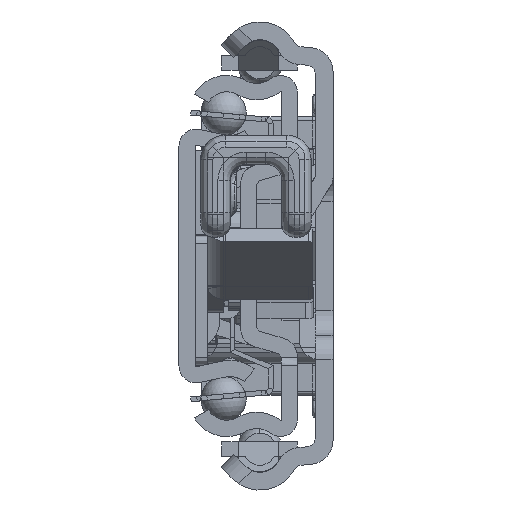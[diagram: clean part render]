
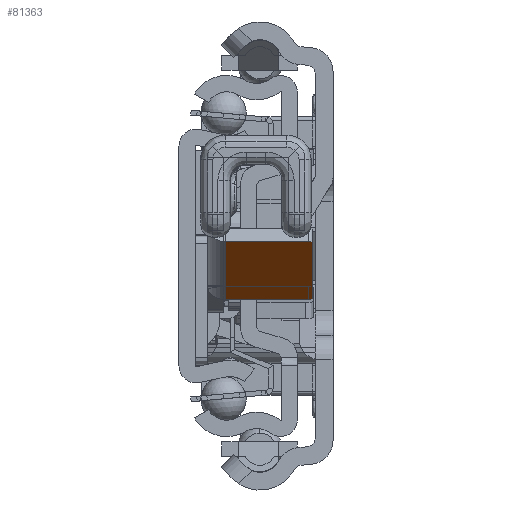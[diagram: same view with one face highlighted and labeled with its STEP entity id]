
A CAD part, left-side view. The second image highlights one B-rep face of the part: STEP entity #81363.
In plain terms, the highlighted planar face has unit normal (-0.597, 0, -0.802) as drawn and (-0.597, -0.802, 0) by its records, which use the part's own axes.
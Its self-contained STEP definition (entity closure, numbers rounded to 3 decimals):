
#80755=DIRECTION('',(0.802,-0.597,0.));
#80756=VECTOR('',#80755,12.);
#80757=CARTESIAN_POINT('',(31.957,-10.314,2.2));
#80758=LINE('',#80757,#80756);
#80783=CARTESIAN_POINT('',(41.184,-17.178,12.5));
#80784=DIRECTION('',(-0.597,-0.802,0.));
#80785=DIRECTION('',(0.802,-0.597,0.));
#80786=AXIS2_PLACEMENT_3D('',#80783,#80784,#80785);
#80788=DIRECTION('',(0.,0.,1.));
#80789=VECTOR('',#80788,10.3);
#80790=CARTESIAN_POINT('',(41.586,-17.476,2.2));
#80791=LINE('',#80790,#80789);
#80792=DIRECTION('',(0.,0.,-1.));
#80793=VECTOR('',#80792,10.3);
#80794=CARTESIAN_POINT('',(31.957,-10.314,12.5));
#80795=LINE('',#80794,#80793);
#80796=CARTESIAN_POINT('',(32.358,-10.613,12.5));
#80797=DIRECTION('',(-0.597,-0.802,0.));
#80798=DIRECTION('',(0.,0.,1.));
#80799=AXIS2_PLACEMENT_3D('',#80796,#80797,#80798);
#80801=DIRECTION('',(-0.802,0.597,0.));
#80802=VECTOR('',#80801,11.);
#80803=CARTESIAN_POINT('',(41.184,-17.178,13.));
#80804=LINE('',#80803,#80802);
#81017=CARTESIAN_POINT('',(31.957,-10.314,2.2));
#81018=CARTESIAN_POINT('',(41.586,-17.476,2.2));
#81019=VERTEX_POINT('',#81017);
#81020=VERTEX_POINT('',#81018);
#81049=CARTESIAN_POINT('',(41.586,-17.476,12.5));
#81050=CARTESIAN_POINT('',(41.184,-17.178,13.));
#81051=VERTEX_POINT('',#81049);
#81052=VERTEX_POINT('',#81050);
#81057=CARTESIAN_POINT('',(32.358,-10.613,13.));
#81058=CARTESIAN_POINT('',(31.957,-10.314,12.5));
#81059=VERTEX_POINT('',#81057);
#81060=VERTEX_POINT('',#81058);
#81345=CARTESIAN_POINT('',(34.726,-12.374,0.));
#81346=DIRECTION('',(-0.597,-0.802,0.));
#81347=DIRECTION('',(0.802,-0.597,0.));
#81348=AXIS2_PLACEMENT_3D('',#81345,#81346,#81347);
#81349=PLANE('',#81348);
#81351=ORIENTED_EDGE('',*,*,#81350,.F.);
#81353=ORIENTED_EDGE('',*,*,#81352,.F.);
#81354=ORIENTED_EDGE('',*,*,#81332,.F.);
#81356=ORIENTED_EDGE('',*,*,#81355,.F.);
#81358=ORIENTED_EDGE('',*,*,#81357,.F.);
#81360=ORIENTED_EDGE('',*,*,#81359,.F.);
#81361=EDGE_LOOP('',(#81351,#81353,#81354,#81356,#81358,#81360));
#81362=FACE_OUTER_BOUND('',#81361,.F.);
#80787=CIRCLE('',#80786,0.5);
#80800=CIRCLE('',#80799,0.5);
#81332=EDGE_CURVE('',#81019,#81020,#80758,.T.);
#81350=EDGE_CURVE('',#81051,#81052,#80787,.T.);
#81352=EDGE_CURVE('',#81020,#81051,#80791,.T.);
#81355=EDGE_CURVE('',#81060,#81019,#80795,.T.);
#81357=EDGE_CURVE('',#81059,#81060,#80800,.T.);
#81359=EDGE_CURVE('',#81052,#81059,#80804,.T.);
#81363=ADVANCED_FACE('',(#81362),#81349,.T.);
